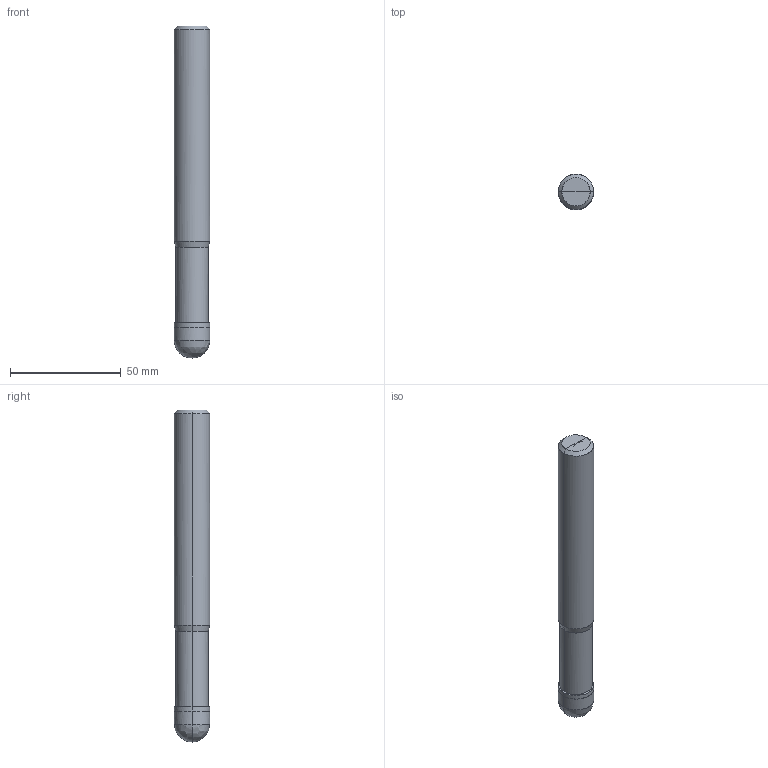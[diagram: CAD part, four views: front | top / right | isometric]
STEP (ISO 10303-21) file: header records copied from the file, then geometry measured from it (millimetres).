
FILE_DESCRIPTION(/* description */ (''),/* implementation_level */ '2;1');
FILE_NAME(/*name*/ '2102-16.0',/*time_stamp*/'2021-7-5T11:58:3',/*author*/ ('ISBE GmbH'),/*organization*/ ('ISBE GmbH'),/*preprocessor_version*/ 'STEP IO v1.0',/*originating_system*/ '',/*authorisation*/ '');
FILE_SCHEMA (('AUTOMOTIVE_DESIGN'));
Length unit declared in the file: millimetre
Products named in the file (1): Document
Bounding box: 16 x 15.99 x 150 mm (x, y, z)
Surface area: 7977.6 mm2 (no closed solid volume)
Topology: 0 solids, 22 shells, 22 faces, 90 edges, 84 vertices
Faces by surface type: bspline 22
Entity records: 687 total; most frequent: CARTESIAN_POINT 302, VERTEX_POINT 80, EDGE_CURVE 80, ORIENTED_EDGE 80, EDGE_LOOP 22, FACE_OUTER_BOUND 22, ADVANCED_FACE 22, DIRECTION 16
